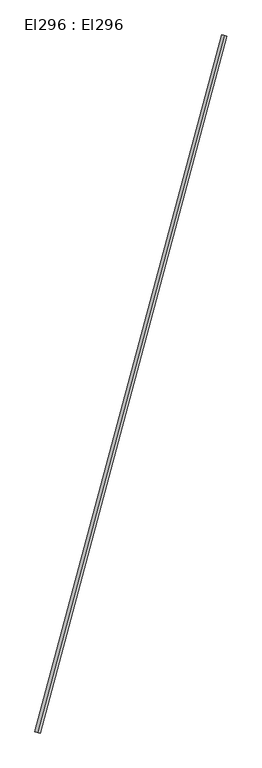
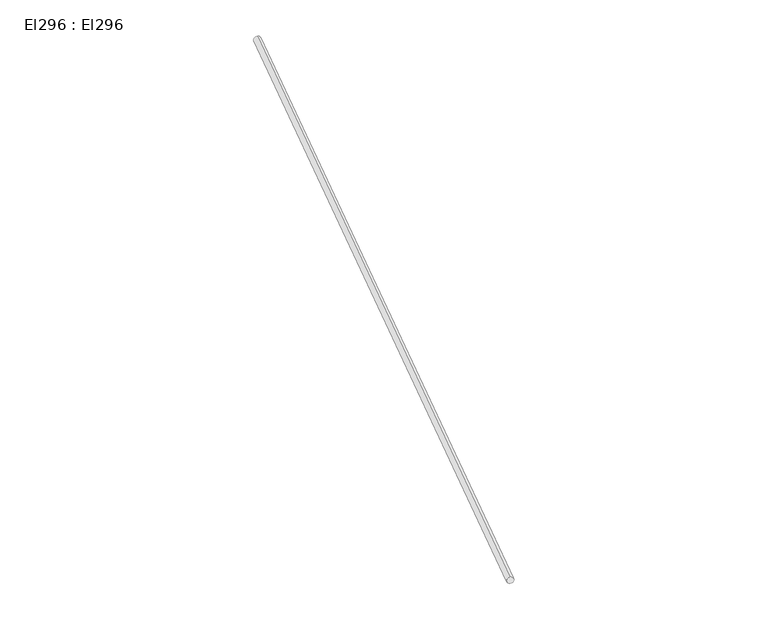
"""IFC4 building model written with IfcOpenShell, lengths in millimetres: cable carrier segment geometry, El296 : El296."""

from ifc_helpers import new_model, si_unit, point, frame, frame_2d, origin, place, context, project, spatial, circle_curve, trimmed, segment, composite_curve, outline, extrude, source, transform, mapped, element, save


def el296_el296_707103bf(model_context):
    return source(origin(), model_context, "Body", "SweptSolid", [
        extrude(outline(composite_curve([segment(trimmed(circle_curve(frame_2d((0.0, -9.5)), 9.5), [point((0.0, -19.0))], [point((0.0, 0.0))], False, "CARTESIAN"), True, "CONTINUOUS"), segment(trimmed(circle_curve(frame_2d((0.0, -9.5)), 9.5), [point((0.0, 0.0))], [point((0.0, -19.0))], False, "CARTESIAN"), True, "CONTINUOUS")], self_intersect=False)), frame((17966.696, 12397.03, 2959.5), z_axis=(0.25881904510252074, 0.9659258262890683, 0.0), x_axis=(-0.9659258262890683, 0.25881904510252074, 0.0)), (0.0, 0.0, 1.0), 2452.96),
    ])


if __name__ == "__main__":
    model = new_model("IFC4")
    model_context = context("Model", 3, world=origin())
    ifc_project = project(units=[si_unit("LENGTHUNIT", "METRE", prefix="MILLI")], contexts=[model_context])
    site = spatial("IfcSite", under=ifc_project)
    building = spatial("IfcBuilding", under=site)
    placement = place(None, origin())
    el296_el296_shape = el296_el296_707103bf(model_context)
    element("IfcCableCarrierSegment", 1, ObjectType="El296 : El296", at=placement, inside=building, context=model_context, shape_type="MappedRepresentation", body=[
        mapped(el296_el296_shape, transform((0.0, 0.0, 0.0), x_axis=(1.0, 0.0, 0.0), y_axis=(0.0, 1.0, 0.0), z_axis=(0.0, 0.0, 1.0))),
    ])
    save(model, "model.ifc")
